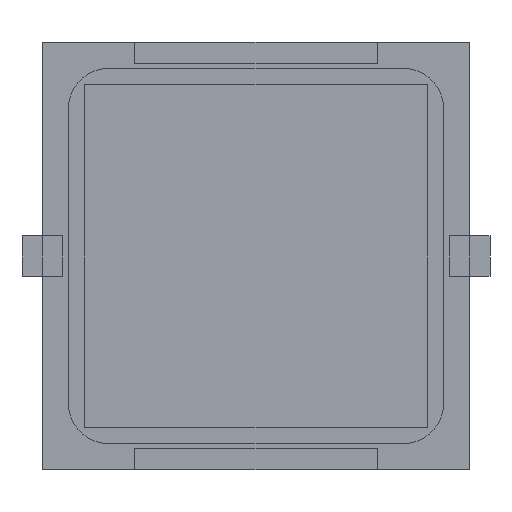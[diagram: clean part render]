
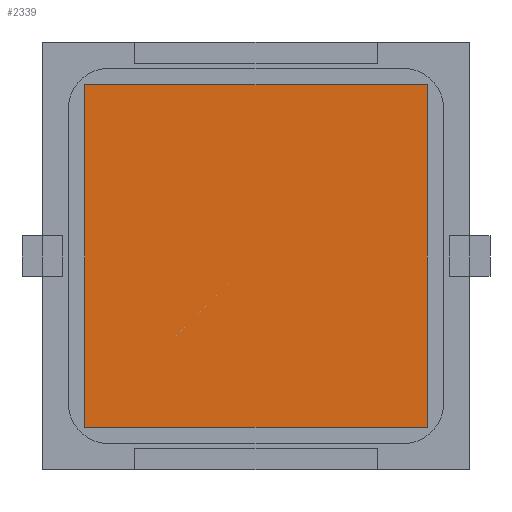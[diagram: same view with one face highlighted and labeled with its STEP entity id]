
A CAD part, front view. The second image highlights one B-rep face of the part: STEP entity #2339.
In plain terms, the highlighted planar face has unit normal (0, -1, 0).
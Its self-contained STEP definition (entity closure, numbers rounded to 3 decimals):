
#68 = DIRECTION ( 'NONE',  ( 0., 1., 0. ) ) ;
#136 = EDGE_CURVE ( 'NONE', #3516, #2262, #1198, .T. ) ;
#432 = EDGE_CURVE ( 'NONE', #2584, #3516, #3869, .T. ) ;
#947 = CARTESIAN_POINT ( 'NONE',  ( -8.5, -0.127, 8.5 ) ) ;
#973 = FACE_OUTER_BOUND ( 'NONE', #1139, .T. ) ;
#1046 = DIRECTION ( 'NONE',  ( 0., 0., -1. ) ) ;
#1139 = EDGE_LOOP ( 'NONE', ( #4800, #2654, #2583, #2266 ) ) ;
#1198 = LINE ( 'NONE', #1320, #4771 ) ;
#1320 = CARTESIAN_POINT ( 'NONE',  ( -8.5, -0.127, -8.5 ) ) ;
#1440 = DIRECTION ( 'NONE',  ( 0., 0., 1. ) ) ;
#1554 = VECTOR ( 'NONE', #4322, 1000. ) ;
#1708 = CARTESIAN_POINT ( 'NONE',  ( -8.5, -0.127, -8.5 ) ) ;
#2101 = DIRECTION ( 'NONE',  ( 0., 0., 1. ) ) ;
#2262 = VERTEX_POINT ( 'NONE', #2687 ) ;
#2266 = ORIENTED_EDGE ( 'NONE', *, *, #4224, .F. ) ;
#2339 = ADVANCED_FACE ( 'NONE', ( #973 ), #4989, .F. ) ;
#2583 = ORIENTED_EDGE ( 'NONE', *, *, #432, .F. ) ;
#2584 = VERTEX_POINT ( 'NONE', #4350 ) ;
#2632 = EDGE_CURVE ( 'NONE', #2262, #5165, #5749, .T. ) ;
#2646 = CARTESIAN_POINT ( 'NONE',  ( -8.5, -0.127, 8.5 ) ) ;
#2654 = ORIENTED_EDGE ( 'NONE', *, *, #136, .F. ) ;
#2687 = CARTESIAN_POINT ( 'NONE',  ( -8.5, -0.127, -8.5 ) ) ;
#2803 = AXIS2_PLACEMENT_3D ( 'NONE', #947, #68, #1440 ) ;
#3344 = CARTESIAN_POINT ( 'NONE',  ( 8.5, -0.127, -8.5 ) ) ;
#3356 = LINE ( 'NONE', #3810, #1554 ) ;
#3444 = DIRECTION ( 'NONE',  ( -1., 0., 0. ) ) ;
#3516 = VERTEX_POINT ( 'NONE', #3344 ) ;
#3527 = VECTOR ( 'NONE', #2101, 1000. ) ;
#3747 = CARTESIAN_POINT ( 'NONE',  ( 8.5, -0.127, -8.5 ) ) ;
#3810 = CARTESIAN_POINT ( 'NONE',  ( -8.5, -0.127, 8.5 ) ) ;
#3869 = LINE ( 'NONE', #3747, #5427 ) ;
#4224 = EDGE_CURVE ( 'NONE', #5165, #2584, #3356, .T. ) ;
#4322 = DIRECTION ( 'NONE',  ( 1., 0., 0. ) ) ;
#4350 = CARTESIAN_POINT ( 'NONE',  ( 8.5, -0.127, 8.5 ) ) ;
#4771 = VECTOR ( 'NONE', #3444, 1000. ) ;
#4800 = ORIENTED_EDGE ( 'NONE', *, *, #2632, .F. ) ;
#4989 = PLANE ( 'NONE',  #2803 ) ;
#5165 = VERTEX_POINT ( 'NONE', #2646 ) ;
#5427 = VECTOR ( 'NONE', #1046, 1000. ) ;
#5749 = LINE ( 'NONE', #1708, #3527 ) ;
